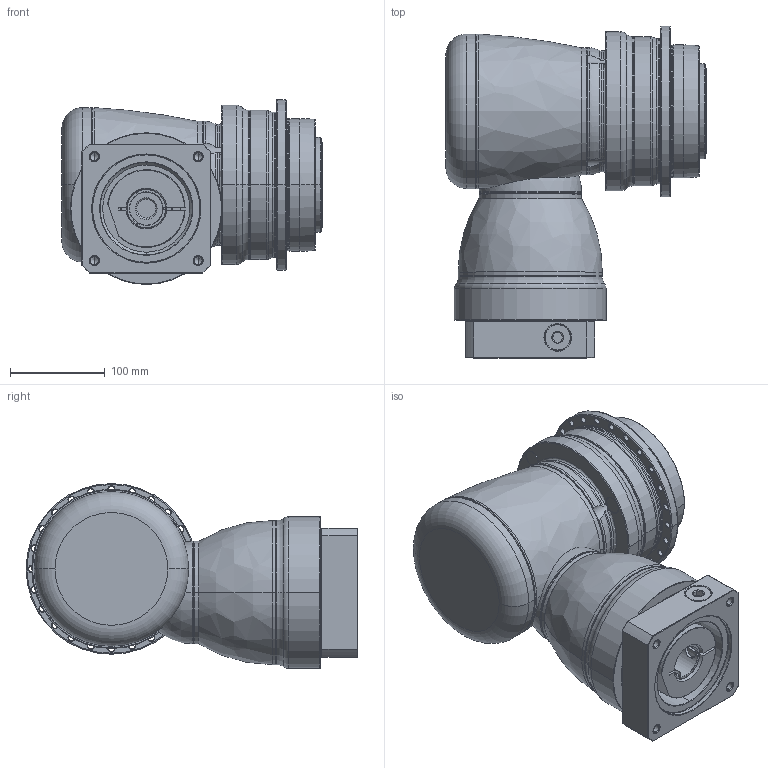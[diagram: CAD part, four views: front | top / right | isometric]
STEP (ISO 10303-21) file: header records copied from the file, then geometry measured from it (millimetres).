
FILE_DESCRIPTION((''),'2;1');
FILE_NAME('APK140_2ST_35-P0409800201_ASM','2018-05-31T',('D00080'),(''),'PRO/ENGINEER BY PARAMETRIC TECHNOLOGY CORPORATION, 2008170','PRO/ENGINEER BY PARAMETRIC TECHNOLOGY CORPORATION, 2008170','');
FILE_SCHEMA(('CONFIG_CONTROL_DESIGN'));
Length unit declared in the file: millimetre
Products named in the file (13): P1008500002; P1802510011; P0278501003; P0359501103; P1211500001; P1315500001; P1007501001; P1318501301; P0503800012; P0912503001; P0409800201; 21711422019; APK140_2ST_35-P0409800201_ASM
Assembly tree (12 placements, depth 2):
  APK140_2ST_35-P0409800201_ASM
    P1008500002
    P1802510011
    P0278501003
    P0359501103
    P1211500001
    P1315500001
    P1007501001
    P1318501301
    P0503800012
    P0912503001
    P0409800201
    21711422019
Bounding box: 274.5 x 350 x 195 mm (x, y, z)
Volume: 7631397.6 mm3; surface area: 702758 mm2
Topology: 13 solids, 38 shells, 853 faces, 1956 edges, 1191 vertices
Faces by surface type: cylinder 355, cone 234, plane 145, torus 98, bspline 19, sphere 2
Entity records: 29736 total; most frequent: CARTESIAN_POINT 9737, DIRECTION 4594, ORIENTED_EDGE 3722, AXIS2_PLACEMENT_3D 1968, EDGE_CURVE 1912, VERTEX_POINT 1191, CIRCLE 1099, EDGE_LOOP 1023
